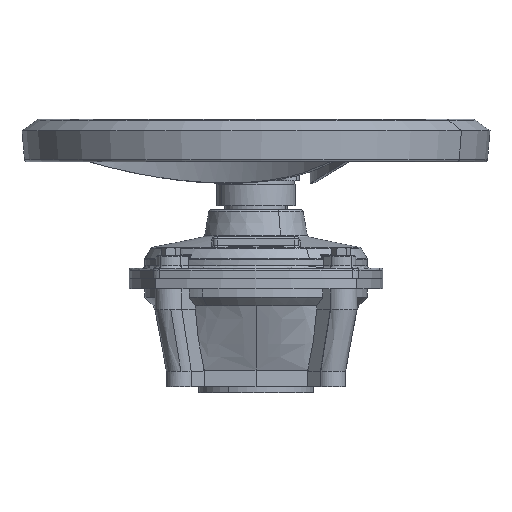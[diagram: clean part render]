
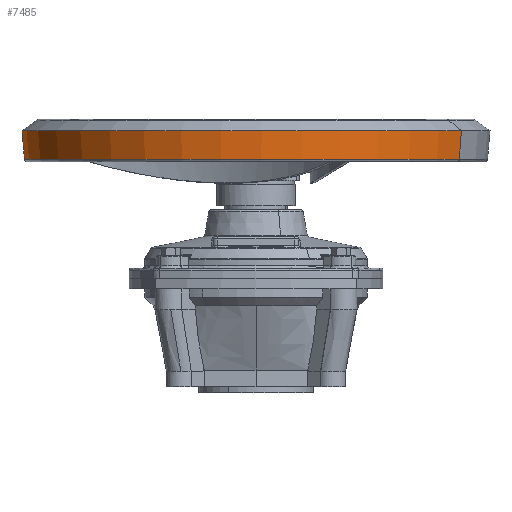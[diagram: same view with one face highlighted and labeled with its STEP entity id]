
A CAD part, front view. The second image highlights one B-rep face of the part: STEP entity #7485.
In plain terms, the highlighted conical face has half-angle 5 degrees and reference radius 111.188 mm.
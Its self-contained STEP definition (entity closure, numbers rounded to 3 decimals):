
#6353=CARTESIAN_POINT('Vertex',(53.935,98.728,67.)) ;
#6360=CARTESIAN_POINT('Vertex',(-53.935,-98.728,67.)) ;
#6375=CARTESIAN_POINT('Axis2P3D Location',(0.,0.,67.)) ;
#7443=CARTESIAN_POINT('Axis2P3D Location',(0.,0.,52.)) ;
#7448=CARTESIAN_POINT('Line Origine',(-53.621,-98.152,59.5)) ;
#7452=CARTESIAN_POINT('Vertex',(-53.364,-97.681,53.369)) ;
#7455=CARTESIAN_POINT('Line Origine',(53.621,98.152,59.5)) ;
#7459=CARTESIAN_POINT('Vertex',(53.364,97.681,53.369)) ;
#7474=CARTESIAN_POINT('Axis2P3D Location',(0.,0.,53.369)) ;
#6376=DIRECTION('Axis2P3D Direction',(0.,0.,-1.)) ;
#7444=DIRECTION('Axis2P3D Direction',(0.,0.,1.)) ;
#7445=DIRECTION('Axis2P3D XDirection',(0.479,0.878,0.)) ;
#7449=DIRECTION('Vector Direction',(-0.042,-0.076,0.996)) ;
#7456=DIRECTION('Vector Direction',(0.042,0.076,0.996)) ;
#7475=DIRECTION('Axis2P3D Direction',(0.,0.,1.)) ;
#6377=AXIS2_PLACEMENT_3D('Circle Axis2P3D',#6375,#6376,$) ;
#7446=AXIS2_PLACEMENT_3D('Cone Axis2P3D',#7443,#7444,#7445) ;
#7476=AXIS2_PLACEMENT_3D('Circle Axis2P3D',#7474,#7475,$) ;
#7480=ORIENTED_EDGE('',*,*,#7461,.F.) ;
#7481=ORIENTED_EDGE('',*,*,#6379,.T.) ;
#7482=ORIENTED_EDGE('',*,*,#7454,.T.) ;
#7483=ORIENTED_EDGE('',*,*,#7478,.F.) ;
#7450=VECTOR('Line Direction',#7449,1.) ;
#7457=VECTOR('Line Direction',#7456,1.) ;
#7485=ADVANCED_FACE('',(#7484),#7447,.T.) ;
#6378=CIRCLE('generated circle',#6377,112.5) ;
#7477=CIRCLE('generated circle',#7476,111.307) ;
#7447=CONICAL_SURFACE('Cone',#7446,111.188,0.087) ;
#6379=EDGE_CURVE('',#6354,#6361,#6378,.T.) ;
#7454=EDGE_CURVE('',#6361,#7453,#7451,.F.) ;
#7461=EDGE_CURVE('',#6354,#7460,#7458,.F.) ;
#7478=EDGE_CURVE('',#7460,#7453,#7477,.F.) ;
#7479=EDGE_LOOP('',(#7480,#7481,#7482,#7483)) ;
#7484=FACE_OUTER_BOUND('',#7479,.T.) ;
#7451=LINE('Line',#7448,#7450) ;
#7458=LINE('Line',#7455,#7457) ;
#6354=VERTEX_POINT('',#6353) ;
#6361=VERTEX_POINT('',#6360) ;
#7453=VERTEX_POINT('',#7452) ;
#7460=VERTEX_POINT('',#7459) ;
